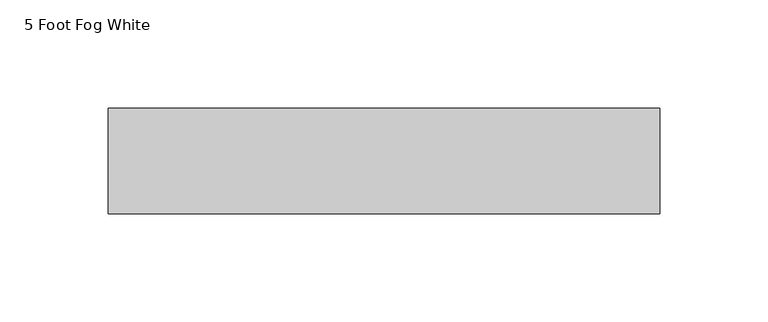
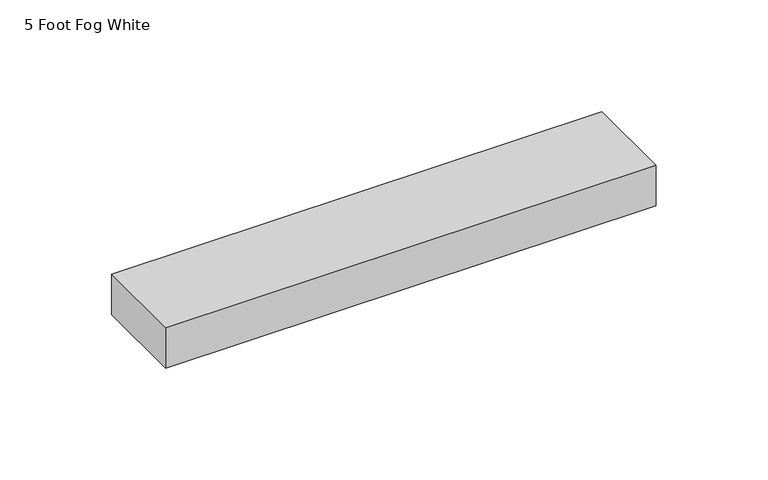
"""IFC4 building model written with IfcOpenShell, lengths in millimetres: proxy geometry, Raceway-2400_Series-Wiremold-Steel : 5 Foot Fog White."""

from ifc_helpers import new_model, si_unit, origin, origin_with_axes, place, context, project, spatial, polyline, outline, extrude, source, transform, mapped, element, save


def proxy_5_foot_fog_white_09a12301(model_context):
    return source(origin(), model_context, "Body", "SweptSolid", [
        extrude(outline(polyline([(254.0, 24.2062), (254.0, -24.2062), (0.0, -24.2062), (0.0, 24.2062), (254.0, 24.2062)])), origin_with_axes(), (0.0, 0.0, 1.0), 22.225),
    ])


if __name__ == "__main__":
    model = new_model("IFC4")
    model_context = context("Model", 3, world=origin())
    ifc_project = project(units=[si_unit("LENGTHUNIT", "METRE", prefix="MILLI")], contexts=[model_context])
    site = spatial("IfcSite", under=ifc_project)
    building = spatial("IfcBuilding", under=site)
    placement = place(None, origin())
    proxy_5_foot_fog_white_shape = proxy_5_foot_fog_white_09a12301(model_context)
    element("IfcBuildingElementProxy", 1, Name="Raceway-2400_Series-Wiremold-Steel : 5 Foot Fog White", ObjectType="Raceway-2400_Series-Wiremold-Steel : 5 Foot Fog White", at=placement, inside=building, context=model_context, shape_type="MappedRepresentation", body=[
        mapped(proxy_5_foot_fog_white_shape, transform((0.0, 0.0, 0.0), x_axis=(1.0, 0.0, 0.0), y_axis=(0.0, 1.0, 0.0), z_axis=(0.0, 0.0, 1.0))),
    ])
    save(model, "model.ifc")
